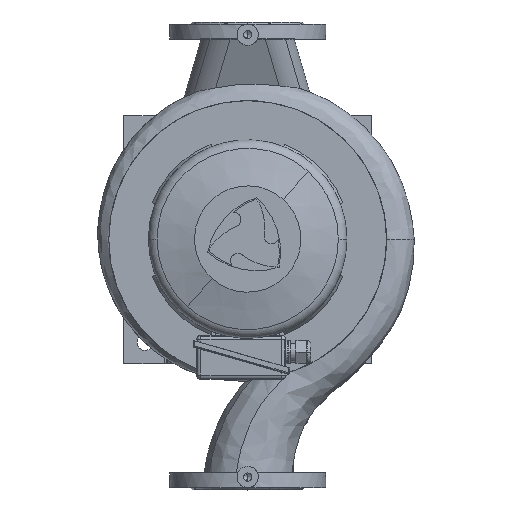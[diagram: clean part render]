
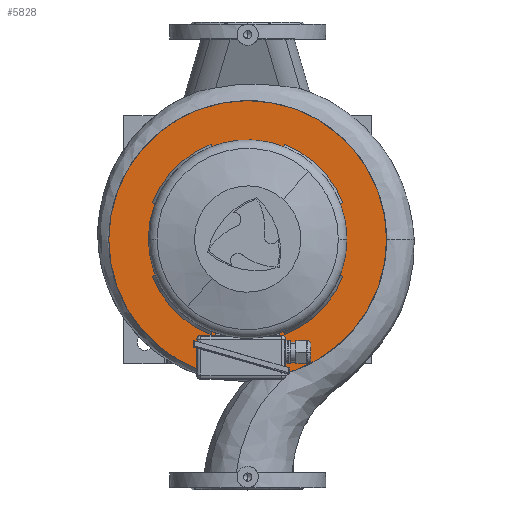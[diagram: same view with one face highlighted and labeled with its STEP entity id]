
A CAD part, top view. The second image highlights one B-rep face of the part: STEP entity #5828.
In plain terms, the highlighted planar face has unit normal (0, 0, 1) as drawn and (1, 0, 0) by its records, which use the part's own axes.
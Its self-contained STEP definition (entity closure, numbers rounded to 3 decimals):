
#5828=ADVANCED_FACE('',(#11603,#11604),#11605,.T.);
#5852=EDGE_CURVE('',#11644,#11645,#11646,.T.);
#5876=EDGE_CURVE('',#11688,#11689,#11690,.T.);
#5884=EDGE_CURVE('',#11698,#11701,#11702,.T.);
#5892=EDGE_CURVE('',#11710,#11713,#11714,.T.);
#5898=EDGE_CURVE('',#11717,#11689,#11722,.T.);
#5900=EDGE_CURVE('',#11724,#11701,#11725,.T.);
#5908=EDGE_CURVE('',#11736,#11732,#11737,.T.);
#5916=EDGE_CURVE('',#11747,#11743,#11748,.T.);
#5924=EDGE_CURVE('',#11754,#11757,#11758,.T.);
#5934=EDGE_CURVE('',#11768,#11698,#11771,.T.);
#5940=EDGE_CURVE('',#11776,#11710,#11779,.T.);
#5948=EDGE_CURVE('',#11787,#11782,#11790,.T.);
#5950=EDGE_CURVE('',#11713,#11732,#11792,.T.);
#5954=EDGE_CURVE('',#11782,#11743,#11796,.T.);
#5958=EDGE_CURVE('',#11757,#11688,#11800,.T.);
#5962=EDGE_CURVE('',#11724,#11776,#11804,.T.);
#5966=EDGE_CURVE('',#11736,#11787,#11808,.T.);
#5968=EDGE_CURVE('',#11717,#11768,#11810,.T.);
#5972=EDGE_CURVE('',#11645,#11644,#11814,.T.);
#5974=EDGE_CURVE('',#11747,#11754,#11816,.T.);
#11603=FACE_OUTER_BOUND('',#22997,.T.);
#11604=FACE_BOUND('',#22998,.T.);
#11605=PLANE('',#22999);
#11644=VERTEX_POINT('',#23040);
#11645=VERTEX_POINT('',#23041);
#11646=CIRCLE('',#23042,196.0);
#11688=VERTEX_POINT('',#23096);
#11689=VERTEX_POINT('',#23097);
#11690=CIRCLE('',#23098,132.799);
#11698=VERTEX_POINT('',#23118);
#11701=VERTEX_POINT('',#23131);
#11702=CIRCLE('',#23132,132.799);
#11710=VERTEX_POINT('',#23152);
#11713=VERTEX_POINT('',#23165);
#11714=CIRCLE('',#23166,132.799);
#11717=VERTEX_POINT('',#23170);
#11722=LINE('',#23187,#23188);
#11724=VERTEX_POINT('',#23191);
#11725=LINE('',#23192,#23193);
#11732=VERTEX_POINT('',#23213);
#11736=VERTEX_POINT('',#23227);
#11737=LINE('',#23228,#23229);
#11743=VERTEX_POINT('',#23248);
#11747=VERTEX_POINT('',#23262);
#11748=LINE('',#23263,#23264);
#11754=VERTEX_POINT('',#23283);
#11757=VERTEX_POINT('',#23296);
#11758=LINE('',#23297,#23298);
#11768=VERTEX_POINT('',#23323);
#11771=LINE('',#23336,#23337);
#11776=VERTEX_POINT('',#23345);
#11779=LINE('',#23358,#23359);
#11782=VERTEX_POINT('',#23363);
#11787=VERTEX_POINT('',#23380);
#11790=LINE('',#23393,#23394);
#11792=CIRCLE('',#23397,132.799);
#11796=CIRCLE('',#23403,132.799);
#11800=CIRCLE('',#23409,132.799);
#11804=CIRCLE('',#23415,144.0);
#11808=CIRCLE('',#23421,144.0);
#11810=CIRCLE('',#23424,144.0);
#11814=CIRCLE('',#23430,196.0);
#11816=CIRCLE('',#23433,144.0);
#22997=EDGE_LOOP('',(#33105,#33106));
#22998=EDGE_LOOP('',(#33107,#33108,#33109,#33110,#33111,#33112,#33113,#33114,#33115,#33116,#33117,#33118,#33119,#33120,#33121,#33122,#33123,#33124));
#22999=AXIS2_PLACEMENT_3D('',#33125,#33126,#33127);
#23040=CARTESIAN_POINT('',(20.0,196.0,0.0));
#23041=CARTESIAN_POINT('',(20.0,-196.0,0.));
#23042=AXIS2_PLACEMENT_3D('',#33227,#33228,#33229);
#23096=CARTESIAN_POINT('',(20.0,-132.799,0.));
#23097=CARTESIAN_POINT('',(20.0,-123.51,-48.794));
#23098=AXIS2_PLACEMENT_3D('',#33263,#33264,#33265);
#23118=CARTESIAN_POINT('',(20.0,-48.794,-123.51));
#23131=CARTESIAN_POINT('',(20.0,48.794,-123.51));
#23132=AXIS2_PLACEMENT_3D('',#33269,#33270,#33271);
#23152=CARTESIAN_POINT('',(20.0,123.51,-48.794));
#23165=CARTESIAN_POINT('',(20.0,132.799,0.));
#23166=AXIS2_PLACEMENT_3D('',#33275,#33276,#33277);
#23170=CARTESIAN_POINT('',(20.0,-134.395,-51.711));
#23187=CARTESIAN_POINT('',(20.0,-134.395,-51.711));
#23188=VECTOR('',#33279,1.0);
#23191=CARTESIAN_POINT('',(20.0,51.711,-134.395));
#23192=CARTESIAN_POINT('',(20.0,51.711,-134.395));
#23193=VECTOR('',#33280,1.0);
#23213=CARTESIAN_POINT('',(20.0,123.51,48.794));
#23227=CARTESIAN_POINT('',(20.0,134.395,51.711));
#23228=CARTESIAN_POINT('',(20.0,134.395,51.711));
#23229=VECTOR('',#33282,1.0);
#23248=CARTESIAN_POINT('',(20.0,-48.794,123.51));
#23262=CARTESIAN_POINT('',(20.0,-51.711,134.395));
#23263=CARTESIAN_POINT('',(20.0,-51.711,134.395));
#23264=VECTOR('',#33284,1.0);
#23283=CARTESIAN_POINT('',(20.0,-134.395,51.711));
#23296=CARTESIAN_POINT('',(20.0,-123.51,48.794));
#23297=CARTESIAN_POINT('',(20.0,-134.395,51.711));
#23298=VECTOR('',#33286,1.0);
#23323=CARTESIAN_POINT('',(20.0,-51.711,-134.395));
#23336=CARTESIAN_POINT('',(20.0,-51.711,-134.395));
#23337=VECTOR('',#33289,1.0);
#23345=CARTESIAN_POINT('',(20.0,134.395,-51.711));
#23358=CARTESIAN_POINT('',(20.0,134.395,-51.711));
#23359=VECTOR('',#33291,1.0);
#23363=CARTESIAN_POINT('',(20.0,48.794,123.51));
#23380=CARTESIAN_POINT('',(20.0,51.711,134.395));
#23393=CARTESIAN_POINT('',(20.0,51.711,134.395));
#23394=VECTOR('',#33293,1.0);
#23397=AXIS2_PLACEMENT_3D('',#33294,#33295,#33296);
#23403=AXIS2_PLACEMENT_3D('',#33300,#33301,#33302);
#23409=AXIS2_PLACEMENT_3D('',#33306,#33307,#33308);
#23415=AXIS2_PLACEMENT_3D('',#33312,#33313,#33314);
#23421=AXIS2_PLACEMENT_3D('',#33318,#33319,#33320);
#23424=AXIS2_PLACEMENT_3D('',#33321,#33322,#33323);
#23430=AXIS2_PLACEMENT_3D('',#33327,#33328,#33329);
#23433=AXIS2_PLACEMENT_3D('',#33330,#33331,#33332);
#33105=ORIENTED_EDGE('',*,*,#5852,.T.);
#33106=ORIENTED_EDGE('',*,*,#5972,.T.);
#33107=ORIENTED_EDGE('',*,*,#5974,.F.);
#33108=ORIENTED_EDGE('',*,*,#5916,.T.);
#33109=ORIENTED_EDGE('',*,*,#5954,.F.);
#33110=ORIENTED_EDGE('',*,*,#5948,.F.);
#33111=ORIENTED_EDGE('',*,*,#5966,.F.);
#33112=ORIENTED_EDGE('',*,*,#5908,.T.);
#33113=ORIENTED_EDGE('',*,*,#5950,.F.);
#33114=ORIENTED_EDGE('',*,*,#5892,.F.);
#33115=ORIENTED_EDGE('',*,*,#5940,.F.);
#33116=ORIENTED_EDGE('',*,*,#5962,.F.);
#33117=ORIENTED_EDGE('',*,*,#5900,.T.);
#33118=ORIENTED_EDGE('',*,*,#5884,.F.);
#33119=ORIENTED_EDGE('',*,*,#5934,.F.);
#33120=ORIENTED_EDGE('',*,*,#5968,.F.);
#33121=ORIENTED_EDGE('',*,*,#5898,.T.);
#33122=ORIENTED_EDGE('',*,*,#5876,.F.);
#33123=ORIENTED_EDGE('',*,*,#5958,.F.);
#33124=ORIENTED_EDGE('',*,*,#5924,.F.);
#33125=CARTESIAN_POINT('',(20.0,170.0,0.0));
#33126=DIRECTION('',(1.0,0.0,0.0));
#33127=DIRECTION('',(0.0,0.0,-1.0));
#33227=CARTESIAN_POINT('',(20.0,0.0,0.0));
#33228=DIRECTION('',(1.0,0.0,0.0));
#33229=DIRECTION('',(0.0,1.0,0.0));
#33263=CARTESIAN_POINT('',(20.0,0.0,0.0));
#33264=DIRECTION('',(1.0,0.0,0.0));
#33265=DIRECTION('',(0.0,1.0,0.0));
#33269=CARTESIAN_POINT('',(20.0,0.0,0.0));
#33270=DIRECTION('',(1.0,0.0,0.0));
#33271=DIRECTION('',(0.0,1.0,0.0));
#33275=CARTESIAN_POINT('',(20.0,0.0,0.0));
#33276=DIRECTION('',(1.0,0.0,0.0));
#33277=DIRECTION('',(0.0,1.0,0.0));
#33279=DIRECTION('',(0.,0.966,0.259));
#33280=DIRECTION('',(0.,-0.259,0.966));
#33282=DIRECTION('',(0.,-0.966,-0.259));
#33284=DIRECTION('',(0.,0.259,-0.966));
#33286=DIRECTION('',(0.,0.966,-0.259));
#33289=DIRECTION('',(0.,0.259,0.966));
#33291=DIRECTION('',(0.,-0.966,0.259));
#33293=DIRECTION('',(0.,-0.259,-0.966));
#33294=CARTESIAN_POINT('',(20.0,0.0,0.0));
#33295=DIRECTION('',(1.0,0.0,0.0));
#33296=DIRECTION('',(0.0,1.0,0.0));
#33300=CARTESIAN_POINT('',(20.0,0.0,0.0));
#33301=DIRECTION('',(1.0,0.0,0.0));
#33302=DIRECTION('',(0.0,1.0,0.0));
#33306=CARTESIAN_POINT('',(20.0,0.0,0.0));
#33307=DIRECTION('',(1.0,0.0,0.0));
#33308=DIRECTION('',(0.0,1.0,0.0));
#33312=CARTESIAN_POINT('',(20.0,0.0,0.0));
#33313=DIRECTION('',(1.0,0.0,0.0));
#33314=DIRECTION('',(0.0,1.0,0.0));
#33318=CARTESIAN_POINT('',(20.0,0.0,0.0));
#33319=DIRECTION('',(1.0,0.0,0.0));
#33320=DIRECTION('',(0.0,1.0,0.0));
#33321=CARTESIAN_POINT('',(20.0,0.0,0.0));
#33322=DIRECTION('',(1.0,0.0,0.0));
#33323=DIRECTION('',(0.0,1.0,0.0));
#33327=CARTESIAN_POINT('',(20.0,0.0,0.0));
#33328=DIRECTION('',(1.0,0.0,0.0));
#33329=DIRECTION('',(0.0,1.0,0.0));
#33330=CARTESIAN_POINT('',(20.0,0.0,0.0));
#33331=DIRECTION('',(1.0,0.0,0.0));
#33332=DIRECTION('',(0.0,1.0,0.0));
